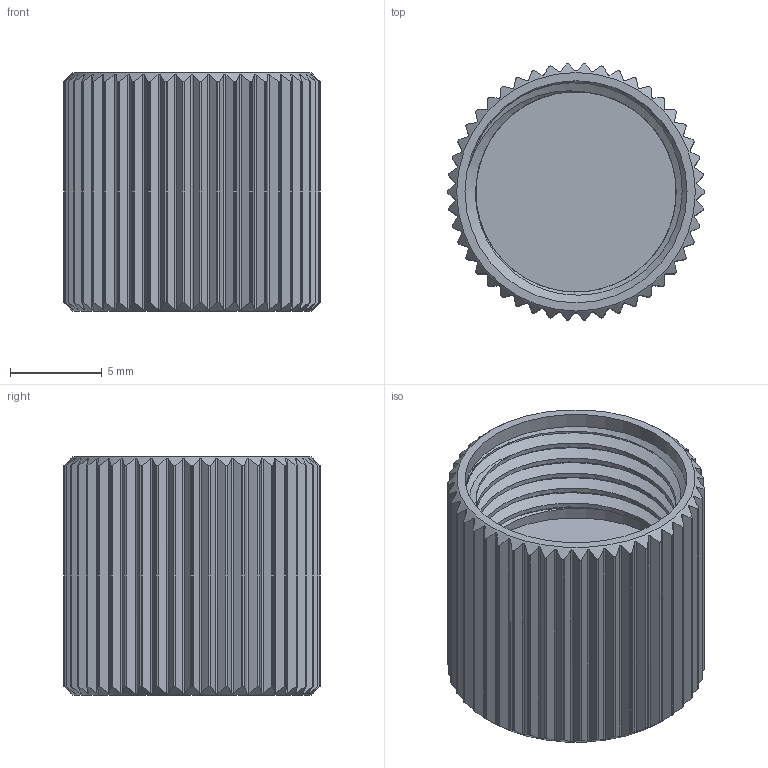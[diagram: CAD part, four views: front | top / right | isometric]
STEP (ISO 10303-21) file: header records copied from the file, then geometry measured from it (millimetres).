
FILE_DESCRIPTION (( 'STEP AP203' ), '1' );
FILE_NAME ('CM01-R-CAP-CF.STEP', '2022-04-04T08:36:03', ( '' ), ( '' ), 'SwSTEP 2.0', 'SolidWorks 2018', '' );
FILE_SCHEMA (( 'CONFIG_CONTROL_DESIGN' ));
Length unit declared in the file: millimetre
Products named in the file (1): CM01-R-CAP-CF
Bounding box: 14 x 13.97 x 13 mm (x, y, z)
Volume: 1125.8 mm3; surface area: 1424.8 mm2
Topology: 1 solids, 1 shells, 289 faces, 854 edges, 569 vertices
Faces by surface type: cylinder 187, plane 96, cone 3, bspline 3
Full cylindrical faces by diameter (mm): 12.1 x2
Entity records: 13686 total; most frequent: CARTESIAN_POINT 6778, ORIENTED_EDGE 1692, DIRECTION 1050, EDGE_CURVE 846, VERTEX_POINT 566, B_SPLINE_CURVE_WITH_KNOTS 467, AXIS2_PLACEMENT_3D 387, EDGE_LOOP 296
